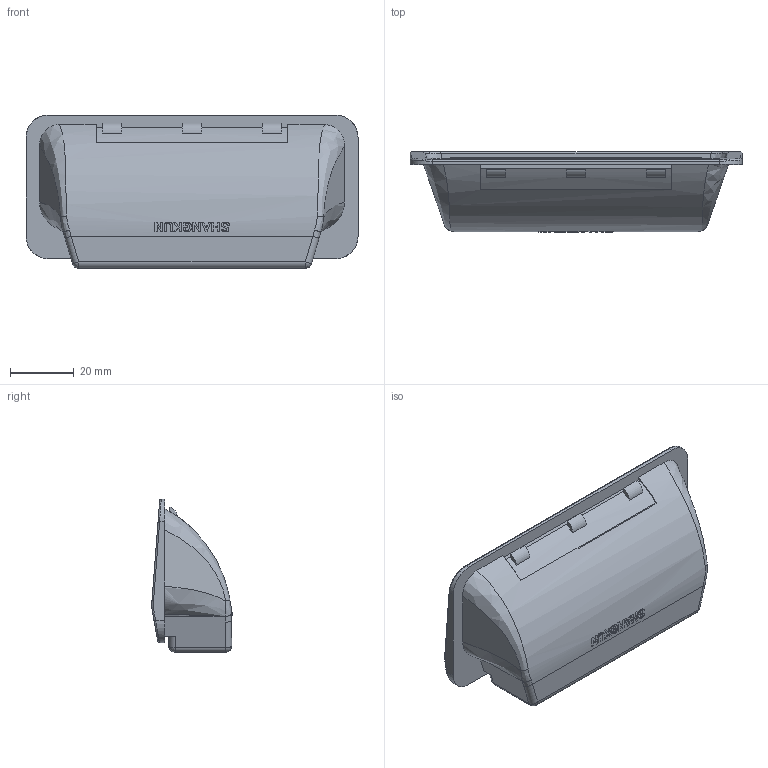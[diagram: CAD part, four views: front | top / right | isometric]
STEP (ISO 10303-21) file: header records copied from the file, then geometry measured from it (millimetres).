
FILE_DESCRIPTION (( 'STEP AP203' ), '1' );
FILE_NAME ('SK4-018-2W.STEP', '2018-04-28T06:59:44', ( 'admin' ), ( 'Microsoft' ), 'SwSTEP 2.0', 'SolidWorks 2015', '' );
FILE_SCHEMA (( 'CONFIG_CONTROL_DESIGN' ));
Length unit declared in the file: millimetre
Products named in the file (1): SK4-018-2W
Bounding box: 104 x 25.18 x 48.2 mm (x, y, z)
Volume: 18261.4 mm3; surface area: 19297.5 mm2
Topology: 1 solids, 1 shells, 357 faces, 916 edges, 578 vertices
Faces by surface type: plane 172, bspline 121, cylinder 54, sphere 6, torus 4
Entity records: 20845 total; most frequent: CARTESIAN_POINT 13151, ORIENTED_EDGE 1812, DIRECTION 1202, EDGE_CURVE 906, VERTEX_POINT 578, LINE 438, VECTOR 438, EDGE_LOOP 384
